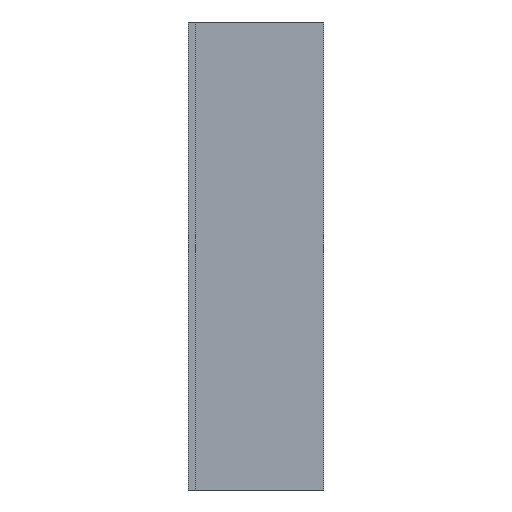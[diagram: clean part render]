
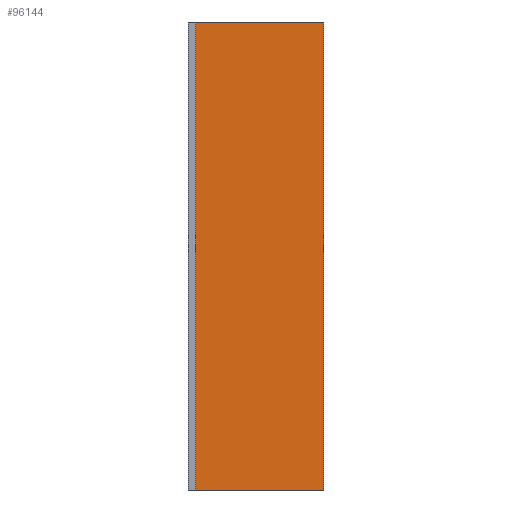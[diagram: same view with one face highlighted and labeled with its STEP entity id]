
A CAD part, left-side view. The second image highlights one B-rep face of the part: STEP entity #96144.
In plain terms, the highlighted planar face has unit normal (-1, 0, 0).
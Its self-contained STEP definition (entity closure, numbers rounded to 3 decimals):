
#577 = CARTESIAN_POINT ( 'NONE',  ( -16.9, 78.65, -143.5 ) ) ;
#4953 = LINE ( 'NONE', #135633, #139801 ) ;
#8298 = CARTESIAN_POINT ( 'NONE',  ( -16.9, 0., 143.5 ) ) ;
#9918 = VECTOR ( 'NONE', #149093, 1000. ) ;
#10493 = DIRECTION ( 'NONE',  ( 0., -1., 0. ) ) ;
#18876 = EDGE_CURVE ( 'NONE', #111509, #96397, #4953, .T. ) ;
#20363 = ORIENTED_EDGE ( 'NONE', *, *, #114404, .F. ) ;
#21231 = PLANE ( 'NONE',  #106548 ) ;
#21808 = DIRECTION ( 'NONE',  ( 0., 1., 0. ) ) ;
#22562 = ORIENTED_EDGE ( 'NONE', *, *, #157959, .F. ) ;
#29281 = CARTESIAN_POINT ( 'NONE',  ( -16.9, 0., -143.5 ) ) ;
#34527 = CARTESIAN_POINT ( 'NONE',  ( -16.9, 78.65, 143.5 ) ) ;
#37954 = CARTESIAN_POINT ( 'NONE',  ( -16.9, 0., 143.5 ) ) ;
#43563 = ORIENTED_EDGE ( 'NONE', *, *, #122443, .T. ) ;
#45664 = LINE ( 'NONE', #68307, #9918 ) ;
#68307 = CARTESIAN_POINT ( 'NONE',  ( -16.9, 0., 143.5 ) ) ;
#68378 = DIRECTION ( 'NONE',  ( 0., -1., 0. ) ) ;
#69152 = LINE ( 'NONE', #34527, #168128 ) ;
#83064 = VERTEX_POINT ( 'NONE', #37954 ) ;
#84716 = EDGE_LOOP ( 'NONE', ( #139134, #22562, #20363, #43563 ) ) ;
#89368 = VERTEX_POINT ( 'NONE', #128324 ) ;
#91103 = CARTESIAN_POINT ( 'NONE',  ( -16.9, 0., 143.5 ) ) ;
#96144 = ADVANCED_FACE ( 'NONE', ( #155744 ), #21231, .F. ) ;
#96397 = VERTEX_POINT ( 'NONE', #29281 ) ;
#98744 = VECTOR ( 'NONE', #10493, 1000. ) ;
#102504 = DIRECTION ( 'NONE',  ( 1., 0., 0. ) ) ;
#106548 = AXIS2_PLACEMENT_3D ( 'NONE', #8298, #102504, #21808 ) ;
#111509 = VERTEX_POINT ( 'NONE', #577 ) ;
#114404 = EDGE_CURVE ( 'NONE', #89368, #83064, #161960, .T. ) ;
#122443 = EDGE_CURVE ( 'NONE', #89368, #111509, #69152, .T. ) ;
#128324 = CARTESIAN_POINT ( 'NONE',  ( -16.9, 78.65, 143.5 ) ) ;
#135633 = CARTESIAN_POINT ( 'NONE',  ( -16.9, 0., -143.5 ) ) ;
#139134 = ORIENTED_EDGE ( 'NONE', *, *, #18876, .T. ) ;
#139801 = VECTOR ( 'NONE', #68378, 1000. ) ;
#140655 = DIRECTION ( 'NONE',  ( 0., 0., -1. ) ) ;
#149093 = DIRECTION ( 'NONE',  ( 0., 0., -1. ) ) ;
#155744 = FACE_OUTER_BOUND ( 'NONE', #84716, .T. ) ;
#157959 = EDGE_CURVE ( 'NONE', #83064, #96397, #45664, .T. ) ;
#161960 = LINE ( 'NONE', #91103, #98744 ) ;
#168128 = VECTOR ( 'NONE', #140655, 1000. ) ;
